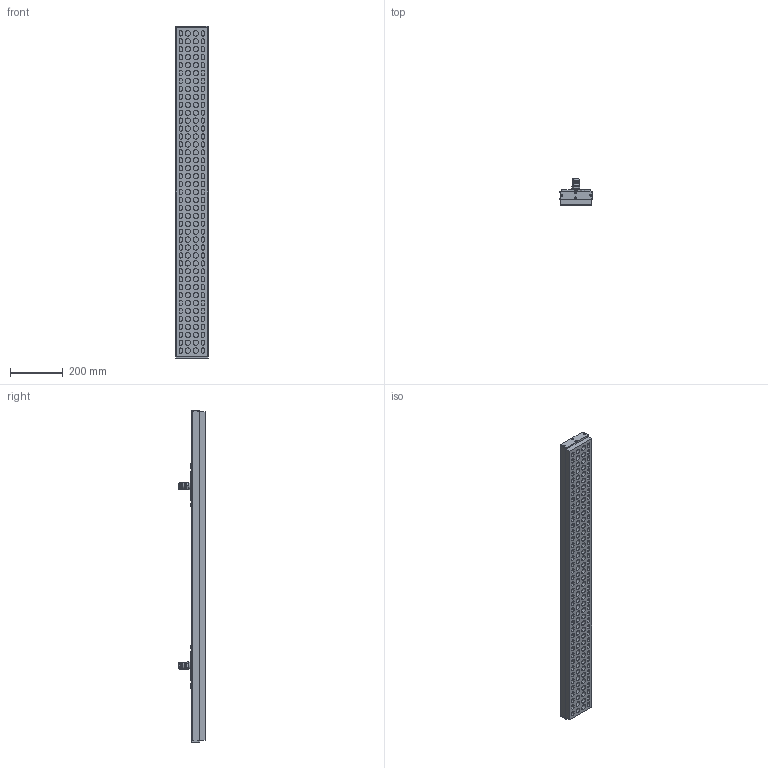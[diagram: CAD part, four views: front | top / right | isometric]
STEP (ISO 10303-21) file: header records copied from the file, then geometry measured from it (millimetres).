
FILE_DESCRIPTION (( 'STEP AP214' ), '1' );
FILE_NAME ('311 250 017.STEP', '2018-01-10T10:06:11', ( '' ), ( '' ), 'SwSTEP 2.0', 'SolidWorks 2017', '' );
FILE_SCHEMA (( 'AUTOMOTIVE_DESIGN' ));
Length unit declared in the file: millimetre
Products named in the file (1): 311 250 017
Bounding box: 121.5 x 98.5 x 1256 mm (x, y, z)
Volume: 6778293.9 mm3; surface area: 679131 mm2
Topology: 1 solids, 1 shells, 1546 faces, 3632 edges, 2320 vertices
Faces by surface type: cylinder 718, plane 568, torus 172, cone 68, bspline 12, sphere 8
Entity records: 62612 total; most frequent: CARTESIAN_POINT 8647, DIRECTION 8446, ORIENTED_EDGE 7224, EDGE_CURVE 3612, AXIS2_PLACEMENT_3D 3387, VERTEX_POINT 2308, CIRCLE 1852, EDGE_LOOP 1790
